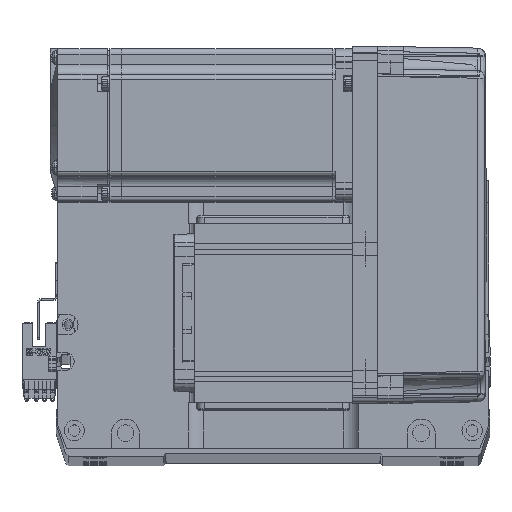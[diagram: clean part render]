
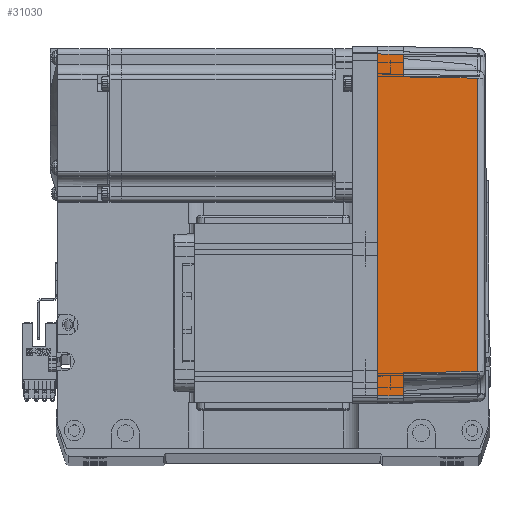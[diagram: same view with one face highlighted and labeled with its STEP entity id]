
A CAD part, top view. The second image highlights one B-rep face of the part: STEP entity #31030.
In plain terms, the highlighted planar face has unit normal (0.018, 0, 1) as drawn and (0, -1, 0.017) by its records, which use the part's own axes.
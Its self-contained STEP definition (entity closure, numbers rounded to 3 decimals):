
#1226 = ORIENTED_EDGE ( 'NONE', *, *, #21156, .T. ) ;
#2069 = DIRECTION ( 'NONE',  ( -0.017, 0.017, 1. ) ) ;
#2758 = VERTEX_POINT ( 'NONE', #15887 ) ;
#3454 = EDGE_CURVE ( 'NONE', #12413, #29179, #35380, .T. ) ;
#3659 = CARTESIAN_POINT ( 'NONE',  ( -19.165, -35.316, 39.181 ) ) ;
#4311 = CARTESIAN_POINT ( 'NONE',  ( -57.495, -35.32, 38.985 ) ) ;
#5509 = EDGE_CURVE ( 'NONE', #37966, #2758, #41637, .T. ) ;
#5630 = CARTESIAN_POINT ( 'NONE',  ( -57.495, -35.32, 38.985 ) ) ;
#5874 = EDGE_CURVE ( 'NONE', #34843, #37966, #58355, .T. ) ;
#6895 = VERTEX_POINT ( 'NONE', #57522 ) ;
#8967 = CARTESIAN_POINT ( 'NONE',  ( 70., -35.825, 10. ) ) ;
#9731 = ORIENTED_EDGE ( 'NONE', *, *, #3454, .F. ) ;
#12413 = VERTEX_POINT ( 'NONE', #52310 ) ;
#12724 = ORIENTED_EDGE ( 'NONE', *, *, #63316, .T. ) ;
#13626 = LINE ( 'NONE', #60369, #51253 ) ;
#14278 = PLANE ( 'NONE',  #59777 ) ;
#15887 = CARTESIAN_POINT ( 'NONE',  ( 58., -35.825, 10. ) ) ;
#18650 = FACE_OUTER_BOUND ( 'NONE', #19438, .T. ) ;
#19333 = CARTESIAN_POINT ( 'NONE',  ( 70., -36., 0. ) ) ;
#19438 = EDGE_LOOP ( 'NONE', ( #47578, #50681, #12724, #51299, #59148, #1226, #9731, #55825 ) ) ;
#19592 = CARTESIAN_POINT ( 'NONE',  ( 57.495, -35.32, 38.985 ) ) ;
#19940 = EDGE_CURVE ( 'NONE', #41048, #6895, #13626, .T. ) ;
#21156 = EDGE_CURVE ( 'NONE', #6895, #29179, #31370, .T. ) ;
#21537 = VECTOR ( 'NONE', #60732, 1000. ) ;
#22465 = CARTESIAN_POINT ( 'NONE',  ( 67., -36., 0. ) ) ;
#28749 = CARTESIAN_POINT ( 'NONE',  ( -66.826, -35.825, 10. ) ) ;
#29109 = CARTESIAN_POINT ( 'NONE',  ( 58., -35.825, 10. ) ) ;
#29179 = VERTEX_POINT ( 'NONE', #28749 ) ;
#29522 = DIRECTION ( 'NONE',  ( -1., 0., 0. ) ) ;
#29762 = DIRECTION ( 'NONE',  ( -0.017, -0.017, -1. ) ) ;
#30641 = EDGE_CURVE ( 'NONE', #33580, #41048, #62979, .T. ) ;
#31030 = ADVANCED_FACE ( 'NONE', ( #18650 ), #14278, .T. ) ;
#31370 = LINE ( 'NONE', #8967, #60028 ) ;
#32233 = VECTOR ( 'NONE', #50111, 1000. ) ;
#33580 = VERTEX_POINT ( 'NONE', #58464 ) ;
#34843 = VERTEX_POINT ( 'NONE', #22465 ) ;
#35380 = LINE ( 'NONE', #49789, #21537 ) ;
#37966 = VERTEX_POINT ( 'NONE', #61727 ) ;
#41048 = VERTEX_POINT ( 'NONE', #5630 ) ;
#41096 = CARTESIAN_POINT ( 'NONE',  ( 70., -35.825, 10. ) ) ;
#41637 = LINE ( 'NONE', #41096, #43276 ) ;
#43276 = VECTOR ( 'NONE', #55969, 1000. ) ;
#44637 = CARTESIAN_POINT ( 'NONE',  ( 0., -36., 0. ) ) ;
#46271 = DIRECTION ( 'NONE',  ( 0., -0.017, -1. ) ) ;
#47578 = ORIENTED_EDGE ( 'NONE', *, *, #5874, .T. ) ;
#48875 = EDGE_CURVE ( 'NONE', #34843, #12413, #61368, .T. ) ;
#49789 = CARTESIAN_POINT ( 'NONE',  ( -66.959, -35.958, 2.39 ) ) ;
#50111 = DIRECTION ( 'NONE',  ( -0.017, 0.017, 1. ) ) ;
#50681 = ORIENTED_EDGE ( 'NONE', *, *, #5509, .T. ) ;
#51201 = DIRECTION ( 'NONE',  ( -1., 0., 0. ) ) ;
#51253 = VECTOR ( 'NONE', #29762, 1000. ) ;
#51299 = ORIENTED_EDGE ( 'NONE', *, *, #30641, .T. ) ;
#52310 = CARTESIAN_POINT ( 'NONE',  ( -67., -36., 0. ) ) ;
#54532 = CARTESIAN_POINT ( 'NONE',  ( 67., -36., 0. ) ) ;
#55825 = ORIENTED_EDGE ( 'NONE', *, *, #48875, .F. ) ;
#55854 = DIRECTION ( 'NONE',  ( 0., -1., 0.017 ) ) ;
#55969 = DIRECTION ( 'NONE',  ( -1., 0., 0. ) ) ;
#56724 = VECTOR ( 'NONE', #2069, 1000. ) ;
#57522 = CARTESIAN_POINT ( 'NONE',  ( -58., -35.825, 10. ) ) ;
#58083 = VECTOR ( 'NONE', #29522, 1000. ) ;
#58355 = LINE ( 'NONE', #54532, #56724 ) ;
#58464 = CARTESIAN_POINT ( 'NONE',  ( 57.495, -35.32, 38.985 ) ) ;
#59148 = ORIENTED_EDGE ( 'NONE', *, *, #19940, .T. ) ;
#59777 = AXIS2_PLACEMENT_3D ( 'NONE', #19333, #55854, #46271 ) ;
#60028 = VECTOR ( 'NONE', #51201, 1000. ) ;
#60369 = CARTESIAN_POINT ( 'NONE',  ( -57.495, -35.32, 38.985 ) ) ;
#60732 = DIRECTION ( 'NONE',  ( 0.017, 0.017, 1. ) ) ;
#61368 = LINE ( 'NONE', #44637, #58083 ) ;
#61727 = CARTESIAN_POINT ( 'NONE',  ( 66.826, -35.825, 10. ) ) ;
#62530 = LINE ( 'NONE', #29109, #32233 ) ;
#62979 = B_SPLINE_CURVE_WITH_KNOTS ( 'NONE', 3,
 ( #19592, #66221, #3659, #4311 ),
 .UNSPECIFIED., .F., .F.,
 ( 4, 4 ),
 ( 0., 1. ),
 .UNSPECIFIED. ) ;
#63316 = EDGE_CURVE ( 'NONE', #2758, #33580, #62530, .T. ) ;
#66221 = CARTESIAN_POINT ( 'NONE',  ( 19.165, -35.316, 39.181 ) ) ;
